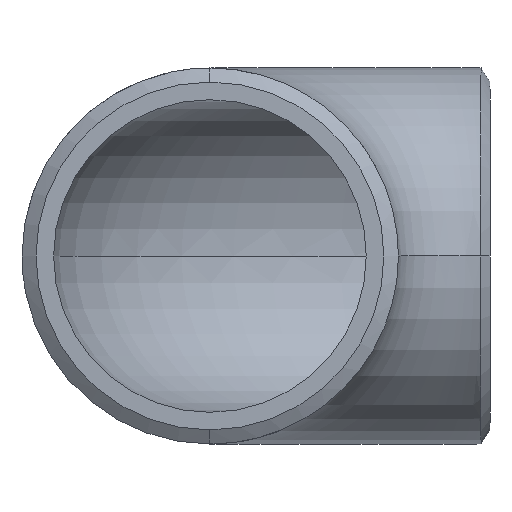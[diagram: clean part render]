
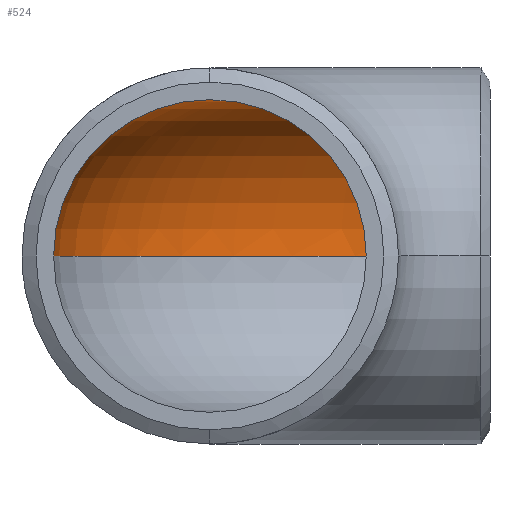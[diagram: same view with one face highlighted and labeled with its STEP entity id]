
A CAD part, front view. The second image highlights one B-rep face of the part: STEP entity #524.
In plain terms, the highlighted toroidal (fillet/blend) face has major radius 31.8 mm and minor radius 17.75 mm.
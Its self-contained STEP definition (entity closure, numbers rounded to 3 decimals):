
#1 = CARTESIAN_POINT ( 'NONE',  ( 31.8, 0., 0. ) ) ;
#33 = CIRCLE ( 'NONE', #276, 17.75 ) ;
#46 = DIRECTION ( 'NONE',  ( -1., 0., 0. ) ) ;
#51 = AXIS2_PLACEMENT_3D ( 'NONE', #169, #473, #347 ) ;
#54 = CARTESIAN_POINT ( 'NONE',  ( 31.8, 14.05, 0. ) ) ;
#63 = EDGE_CURVE ( 'NONE', #161, #304, #209, .T. ) ;
#78 = DIRECTION ( 'NONE',  ( -1., 0., 0. ) ) ;
#95 = VERTEX_POINT ( 'NONE', #54 ) ;
#126 = DIRECTION ( 'NONE',  ( 0., 0., -1. ) ) ;
#161 = VERTEX_POINT ( 'NONE', #326 ) ;
#164 = VERTEX_POINT ( 'NONE', #496 ) ;
#169 = CARTESIAN_POINT ( 'NONE',  ( 31.8, 0., 0. ) ) ;
#171 = EDGE_CURVE ( 'NONE', #95, #164, #33, .T. ) ;
#209 = CIRCLE ( 'NONE', #353, 17.75 ) ;
#226 = AXIS2_PLACEMENT_3D ( 'NONE', #449, #308, #404 ) ;
#243 = EDGE_CURVE ( 'NONE', #161, #95, #344, .T. ) ;
#264 = DIRECTION ( 'NONE',  ( 0., -1., 0. ) ) ;
#276 = AXIS2_PLACEMENT_3D ( 'NONE', #503, #78, #422 ) ;
#280 = ORIENTED_EDGE ( 'NONE', *, *, #345, .T. ) ;
#292 = ORIENTED_EDGE ( 'NONE', *, *, #243, .F. ) ;
#302 = DIRECTION ( 'NONE',  ( 0., 0., 1. ) ) ;
#304 = VERTEX_POINT ( 'NONE', #530 ) ;
#308 = DIRECTION ( 'NONE',  ( 0., 0., -1. ) ) ;
#312 = TOROIDAL_SURFACE ( 'NONE', #406, 31.8, 17.75 ) ;
#326 = CARTESIAN_POINT ( 'NONE',  ( 17.75, 0., 0. ) ) ;
#327 = EDGE_LOOP ( 'NONE', ( #374, #280, #348, #292 ) ) ;
#344 = CIRCLE ( 'NONE', #51, 14.05 ) ;
#345 = EDGE_CURVE ( 'NONE', #304, #164, #468, .T. ) ;
#347 = DIRECTION ( 'NONE',  ( -1., 0., 0. ) ) ;
#348 = ORIENTED_EDGE ( 'NONE', *, *, #171, .F. ) ;
#353 = AXIS2_PLACEMENT_3D ( 'NONE', #514, #264, #302 ) ;
#374 = ORIENTED_EDGE ( 'NONE', *, *, #63, .T. ) ;
#383 = FACE_OUTER_BOUND ( 'NONE', #327, .T. ) ;
#404 = DIRECTION ( 'NONE',  ( -1., 0., 0. ) ) ;
#406 = AXIS2_PLACEMENT_3D ( 'NONE', #1, #126, #46 ) ;
#422 = DIRECTION ( 'NONE',  ( 0., 0., 1. ) ) ;
#449 = CARTESIAN_POINT ( 'NONE',  ( 31.8, 0., 0. ) ) ;
#468 = CIRCLE ( 'NONE', #226, 49.55 ) ;
#473 = DIRECTION ( 'NONE',  ( 0., 0., -1. ) ) ;
#496 = CARTESIAN_POINT ( 'NONE',  ( 31.8, 49.55, 0. ) ) ;
#503 = CARTESIAN_POINT ( 'NONE',  ( 31.8, 31.8, 0. ) ) ;
#514 = CARTESIAN_POINT ( 'NONE',  ( 0., 0., 0. ) ) ;
#524 = ADVANCED_FACE ( 'NONE', ( #383 ), #312, .F. ) ;
#530 = CARTESIAN_POINT ( 'NONE',  ( -17.75, 0., 0. ) ) ;
